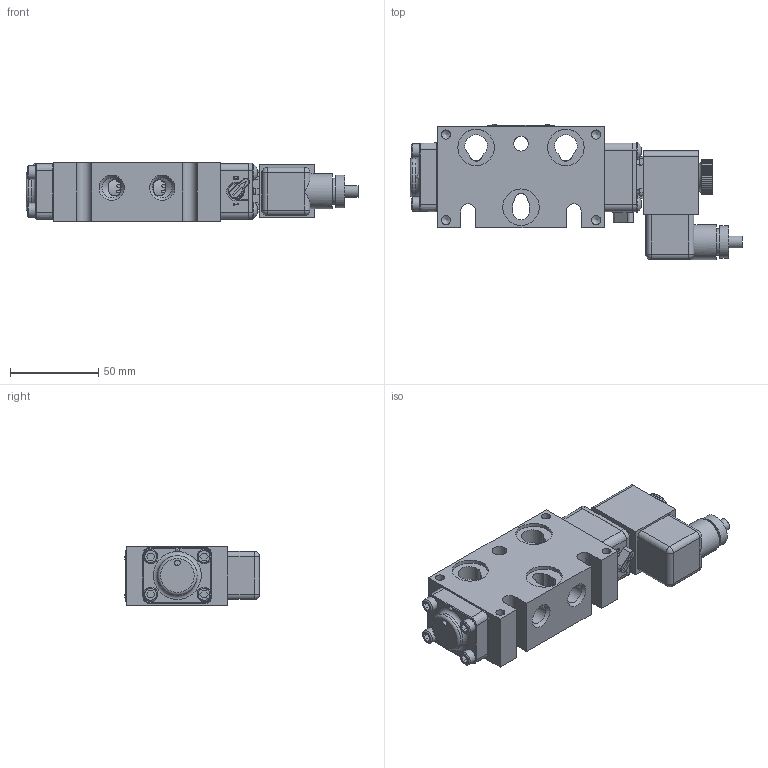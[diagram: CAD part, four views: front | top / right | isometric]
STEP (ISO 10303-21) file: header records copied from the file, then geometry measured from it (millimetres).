
FILE_DESCRIPTION(/* description */ (''),/* implementation_level */ '2;1');
FILE_NAME(/* name */ 'EBSO2TOLZ.stp',/* time_stamp */ '2026-07-17T06:31:52-04:00',/* author */ ('rmckenna'),/* organization */ (''),/* preprocessor_version */ 'ST-DEVELOPER v20.1',/* originating_system */ 'Autodesk Inventor 2026',/* authorisation */ '');
FILE_SCHEMA (('AUTOMOTIVE_DESIGN { 1 0 10303 214 3 1 1 }'));
Length unit declared in the file: centimetre
Products named in the file (1): Part1
Bounding box: 187.82 x 76.4 x 33.32 mm (x, y, z)
Volume: 221894.3 mm3; surface area: 75970.2 mm2
Topology: 3 solids, 31 shells, 1525 faces, 3691 edges, 2342 vertices
Faces by surface type: plane 703, cylinder 417, cone 228, torus 121, bspline 45, sphere 11
Full cylindrical faces by diameter (mm): 1.3 x1, 1.397 x1, 1.5 x1, 2.032 x8, 2.07 x2, 2.261 x2, 2.35 x4, 2.5 x1, 2.778 x2, 2.8 x1, 3 x4, 3.048 x2, 3.175 x2, 3.4 x1, 3.683 x9, 4.191 x2, 4.826 x8, 5.15 x4, 5.156 x12, 5.5 x1, 6.65 x1, 6.731 x1, 7.315 x1, 7.9 x1, 7.938 x4, 8 x2, 8.128 x1, 8.153 x1, 8.334 x1, 8.433 x1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
Entity records: 49265 total; most frequent: CARTESIAN_POINT 11808, DIRECTION 7536, ORIENTED_EDGE 7340, EDGE_CURVE 3670, AXIS2_PLACEMENT_3D 2857, VERTEX_POINT 2341, LINE 1822, VECTOR 1822
